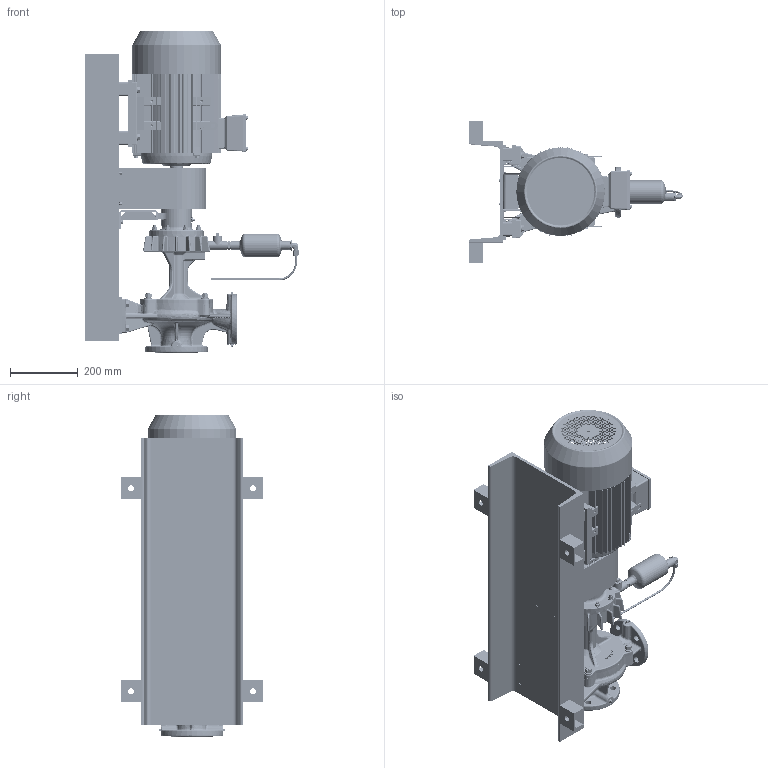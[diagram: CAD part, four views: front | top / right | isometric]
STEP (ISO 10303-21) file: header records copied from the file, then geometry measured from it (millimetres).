
FILE_DESCRIPTION(('STEP AP214'),'1');
FILE_NAME('423799_asm2.stp','2021-11-15T03:02:02',(' '),(' '),'Spatial InterOp 3D',' ',' ');
FILE_SCHEMA(('AUTOMOTIVE_DESIGN { 1 0 10303 214 1 1 1 1 }'));
Length unit declared in the file: metre
Products named in the file (39): 107264_ASM; 107264-1; 107264-2; 423799_asm2; 593611; 595150; 595170; 117585; 842261; 727360; 117517; 704067; 700224; 760255; 704063; 704390; 704371; 704003; 707461; 714864; 711769-1; 701730; 711089; 704391; 760603; 708437; 423040-PIPE; 706287; 704066; 700126; 704055; 704062; 117518; 700296; 700303; 704288; 704389; 705922; 107051
Assembly tree (108 placements, depth 3):
  423799_asm2
    107264_ASM
      107264-1
      107264-2  x2
    593611
    595150
    595170
    117585
    842261
    727360
    117517
    704067  x8
    700224  x4
    760255  x4
    704063  x4
    704390  x6
    704371  x4
    704003  x4
    707461  x4
    714864
    711769-1
    701730
    711089
    704391
    760603
    708437
    423040-PIPE
    706287  x4
    704066  x8
    700126  x8
    704055  x8
    704062  x8
    117518
    700296  x2
    700303  x2
    704288
    704389  x4
    705922  x4
    107051
Bounding box: 631.29 x 420 x 951.97 mm (x, y, z)
Volume: 25939018.2 mm3; surface area: 3366635.4 mm2
Topology: 139 solids, 150 shells, 6897 faces, 18003 edges, 11520 vertices
Faces by surface type: plane 2859, cylinder 1548, bspline 1217, cone 687, torus 274, extrusion 248, sphere 62, revolution 2
Full cylindrical faces by diameter (mm): 5 x4, 7 x1, 8.4 x10, 10 x2, 10.106 x1, 12 x8, 14 x16, 14.475 x2, 16 x3, 30 x2, 30.4 x2, 36 x1, 38 x1, 40 x1, 50 x1, 62 x1, 160 x1, 184 x1, 190 x1, 198 x1, 210 x1, 259 x1, 261.5 x1
Entity records: 260091 total; most frequent: CARTESIAN_POINT 120207, ORIENTED_EDGE 30532, DIRECTION 25848, EDGE_CURVE 15266, VERTEX_POINT 9883, AXIS2_PLACEMENT_3D 8765, VECTOR 8316, LINE 8068
